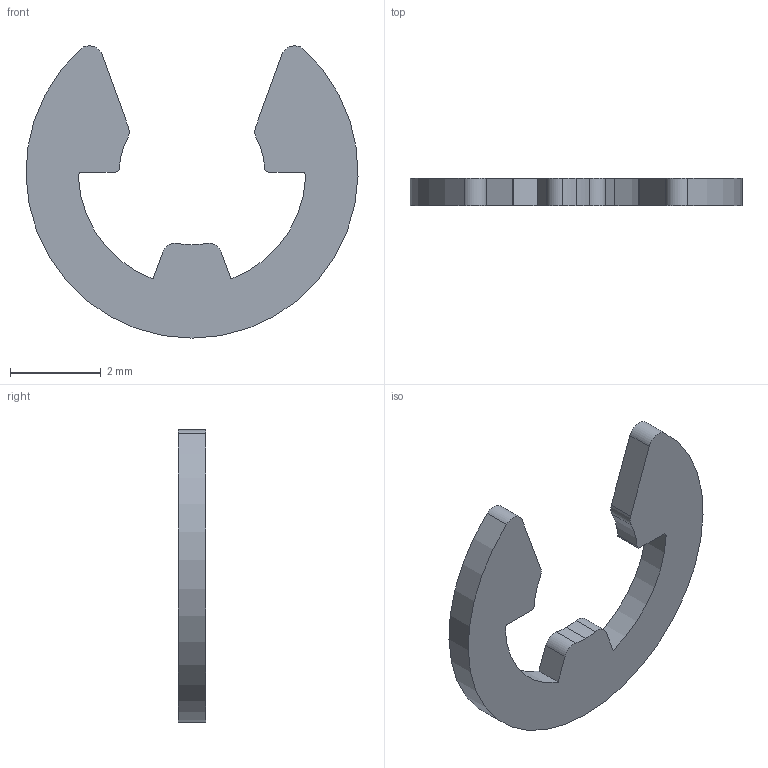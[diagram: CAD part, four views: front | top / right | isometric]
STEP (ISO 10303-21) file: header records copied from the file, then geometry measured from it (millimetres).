
FILE_DESCRIPTION (( 'STEP AP203' ), '1' );
FILE_NAME ('P0382.032-PH.step', '2019-07-25T20:59:50', ( '' ), ( '' ), 'SwSTEP 2.0', 'SolidWorks 2017', '' );
FILE_SCHEMA (( 'CONFIG_CONTROL_DESIGN' ));
Length unit declared in the file: millimetre
Products named in the file (1): P0382.032-PH
Bounding box: 7.3 x 0.6 x 6.42 mm (x, y, z)
Volume: 12.8 mm3; surface area: 63.4 mm2
Topology: 1 solids, 1 shells, 26 faces, 72 edges, 48 vertices
Faces by surface type: cylinder 18, plane 8
Entity records: 929 total; most frequent: DIRECTION 162, CARTESIAN_POINT 147, ORIENTED_EDGE 144, EDGE_CURVE 72, AXIS2_PLACEMENT_3D 63, VERTEX_POINT 48, LINE 36, VECTOR 36
